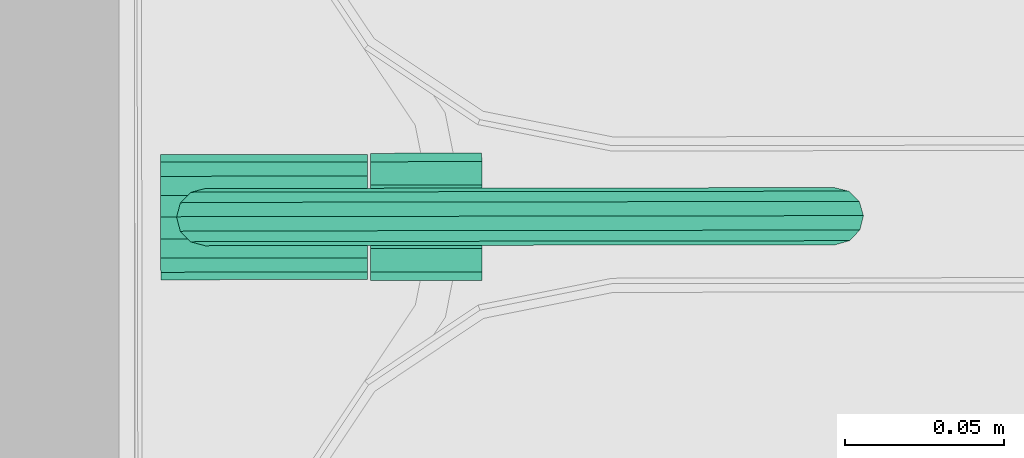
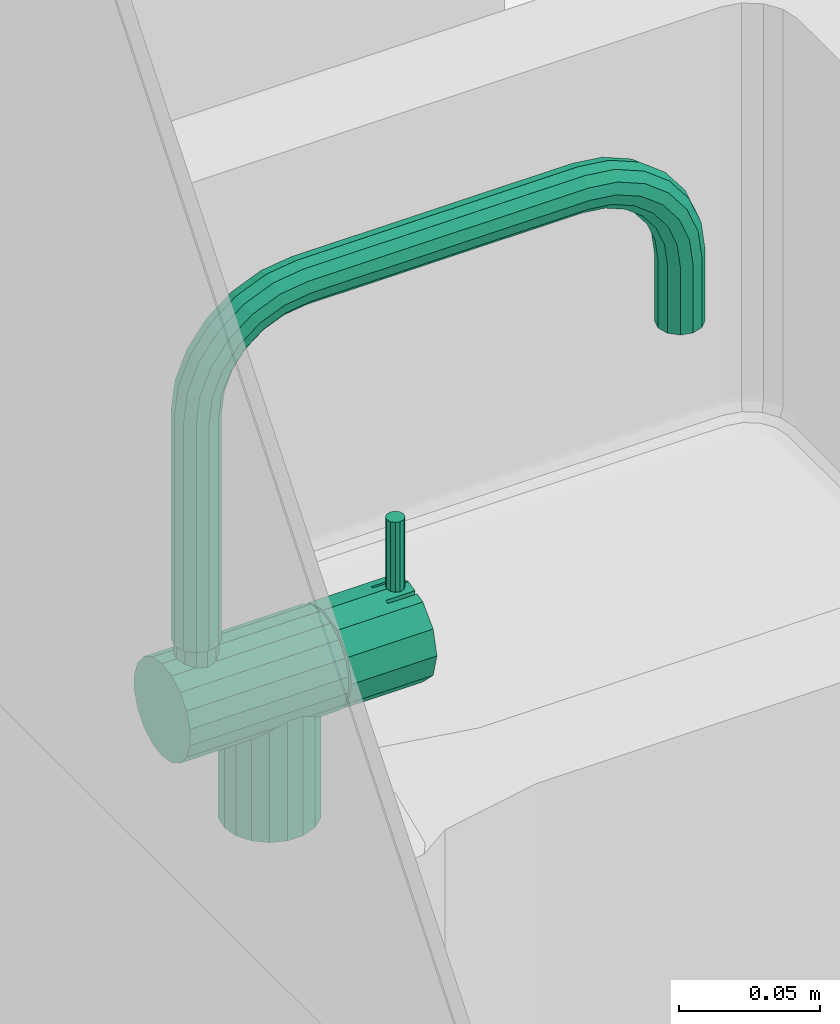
# One storey, part 82 of 127: 1 flow terminal.
"""IFC2X3 building model written with IfcOpenShell, lengths in millimetres."""

from ifc_helpers import new_model, entity, si_unit, converted_unit, derived_unit, money_unit, direction, frame, origin_with_axes, place, context, subcontext, project, spatial, open_shell, faceted_brep, surface_model, source, transform, mapped, type_object, element, save


model = new_model("IFC2X3")

# Units and contexts
model_context = context("Model", 3, precision=1e-05, world=origin_with_axes(), true_north=direction((0.0, 1.0)))
body_context = subcontext(model_context, "Body", "Model", "MODEL_VIEW")
ifc_project = project(units=[si_unit("LENGTHUNIT", "METRE", prefix="MILLI"), si_unit("AREAUNIT", "SQUARE_METRE"), si_unit("VOLUMEUNIT", "CUBIC_METRE"), converted_unit("PLANEANGLEUNIT", "DEGREE", entity("IfcPlaneAngleMeasure", 0.0174532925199), si_unit("PLANEANGLEUNIT", "RADIAN"), dimensions=[0, 0, 0, 0, 0, 0, 0]), si_unit("SOLIDANGLEUNIT", "STERADIAN"), money_unit("EUR"), converted_unit("TIMEUNIT", "Year", entity("IfcTimeMeasure", 31556926.0), si_unit("TIMEUNIT", "SECOND"), dimensions=[0, 0, 1, 0, 0, 0, 0]), si_unit("MASSUNIT", "GRAM", prefix="KILO"), si_unit("THERMODYNAMICTEMPERATUREUNIT", "DEGREE_CELSIUS"), si_unit("LUMINOUSINTENSITYUNIT", "LUMEN"), si_unit("ENERGYUNIT", "JOULE", prefix="MEGA"), derived_unit("THERMALCONDUCTANCEUNIT", [(si_unit("POWERUNIT", "WATT"), 1), (si_unit("LENGTHUNIT", "METRE"), -1), (si_unit("THERMODYNAMICTEMPERATUREUNIT", "KELVIN"), -1)]), derived_unit("SPECIFICHEATCAPACITYUNIT", [(si_unit("ENERGYUNIT", "JOULE"), 1), (si_unit("MASSUNIT", "GRAM", prefix="KILO"), -1), (si_unit("THERMODYNAMICTEMPERATUREUNIT", "KELVIN"), -1)]), derived_unit("MASSDENSITYUNIT", [(si_unit("MASSUNIT", "GRAM", prefix="KILO"), 1), (si_unit("VOLUMEUNIT", "CUBIC_METRE"), -1)])], contexts=[model_context])

# Site, building, storey
site_placement = place(None, origin_with_axes())
site = spatial("IfcSite", under=ifc_project, at=site_placement, Name="Site", CompositionType="ELEMENT")
building_placement = place(site_placement, origin_with_axes())
building = spatial("IfcBuilding", under=site, at=building_placement, Name="Building", CompositionType="ELEMENT")
storey_placement = place(building_placement, origin_with_axes())
storey = spatial("IfcBuildingStorey", under=building, at=storey_placement, Name="1 KORRUS", CompositionType="ELEMENT", Elevation=0.0)

# Flow terminal
sanitary_terminal_type = type_object("IfcSanitaryTerminalType", Name="Tap 22", PredefinedType="NOTDEFINED")
shared_shape = source(origin_with_axes(), body_context, "Body", "SurfaceModel", [
    surface_model("IfcShellBasedSurfaceModel", [(-6.32737265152, 17.3843134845, 1041.02727338), (0.0, 18.5, 1040.0), (0.0, 18.5, 1000.0), (-6.32737265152, 17.3843134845, 1000.0), (6.32737265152, 17.3843134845, 1041.02727338), (6.32737265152, 17.3843134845, 1000.0), (11.8915707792, 14.1718221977, 1000.0), (16.02146997, 9.25, 1000.0), (18.2189434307, 3.21249128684, 1000.0), (18.2189434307, -3.21249128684, 1000.0), (16.02146997, -9.25, 1000.0), (11.8915707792, -14.1718221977, 1000.0), (6.32737265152, -17.3843134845, 1000.0), (0.0, -18.5, 1000.0), (-6.32737265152, -17.3843134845, 1000.0), (-11.8915707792, -14.1718221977, 1000.0), (-16.02146997, -9.25, 1000.0), (-18.2189434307, -3.21249128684, 1000.0), (-18.2189434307, 3.21249128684, 1000.0), (-16.02146997, 9.25, 1000.0), (-11.8915707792, 14.1718221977, 1000.0), (-11.8915707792, 14.1718221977, 1043.91924926), (11.8915707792, 14.1718221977, 1043.91924926), (16.02146997, 9.25, 1048.02868011), (18.2189434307, 3.21249128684, 1051.74953939), (18.2189434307, -3.21249128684, 1051.74953939), (16.02146997, -9.25, 1048.02868011), (11.8915707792, -14.1718221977, 1043.91924926), (6.32737265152, -17.3843134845, 1041.02727338), (0.0, -18.5, 1040.0), (-6.32737265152, -17.3843134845, 1041.02727338), (-11.8915707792, -14.1718221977, 1043.91924926), (-16.02146997, -9.25, 1048.02868011), (-18.2189434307, -3.21249128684, 1051.74953939), (-18.2189434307, 3.21249128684, 1051.74953939), (-16.02146997, 9.25, 1048.02868011)], [open_shell([[[0, 1, 2, 3]], [[1, 4, 5, 2]], [[3, 2, 5, 6, 7, 8, 9, 10, 11, 12, 13, 14, 15, 16, 17, 18, 19, 20]], [[21, 0, 3, 20]], [[4, 22, 6, 5]], [[22, 23, 7, 6]], [[23, 24, 8, 7]], [[24, 25, 9, 8]], [[25, 26, 10, 9]], [[26, 27, 11, 10]], [[27, 28, 12, 11]], [[28, 29, 13, 12]], [[29, 30, 14, 13]], [[30, 31, 15, 14]], [[31, 32, 16, 15]], [[32, 33, 17, 16]], [[33, 34, 18, 17]], [[34, 35, 19, 18]], [[35, 21, 20, 19]]])]),
    faceted_brep([(-6.84040286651, 44.0, 1041.20614758), (-12.8557521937, 44.0, 1044.67911114), (-17.3205080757, 44.0, 1050.0), (-19.6961550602, 44.0, 1056.52703645), (-19.6961550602, 44.0, 1063.47296355), (-17.3205080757, 44.0, 1070.0), (-12.8557521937, 44.0, 1075.32088886), (-6.84040286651, 44.0, 1078.79385242), (0.0, 44.0, 1080.0), (6.84040286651, 44.0, 1078.79385242), (12.8557521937, 44.0, 1075.32088886), (17.3205080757, 44.0, 1070.0), (19.6961550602, 44.0, 1063.47296355), (19.6961550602, 44.0, 1056.52703645), (17.3205080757, 44.0, 1050.0), (12.8557521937, 44.0, 1044.67911114), (6.84040286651, 44.0, 1041.20614758), (0.0, 44.0, 1040.0), (-6.84040286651, -21.0, 1041.20614758), (-12.8557521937, -21.0, 1044.67911114), (-17.3205080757, -21.0, 1050.0), (-19.6961550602, -21.0, 1056.52703645), (-19.6961550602, -21.0, 1063.47296355), (-17.3205080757, -21.0, 1070.0), (-12.8557521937, -21.0, 1075.32088886), (-6.84040286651, -21.0, 1078.79385242), (0.0, -21.0, 1080.0), (6.84040286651, -21.0, 1078.79385242), (12.8557521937, -21.0, 1075.32088886), (17.3205080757, -21.0, 1070.0), (19.6961550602, -21.0, 1063.47296355), (19.6961550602, -21.0, 1056.52703645), (17.3205080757, -21.0, 1050.0), (12.8557521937, -21.0, 1044.67911114), (6.84040286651, -21.0, 1041.20614758), (0.0, -21.0, 1040.0)], [[[0, 1, 2, 3, 4, 5, 6, 7, 8, 9, 10, 11, 12, 13, 14, 15, 16, 17]], [[1, 0, 18, 19]], [[2, 1, 19, 20]], [[3, 2, 20, 21]], [[4, 3, 21, 22]], [[5, 4, 22, 23]], [[6, 5, 23, 24]], [[7, 6, 24, 25]], [[8, 7, 25, 26]], [[9, 8, 26, 27]], [[10, 9, 27, 28]], [[11, 10, 28, 29]], [[12, 11, 29, 30]], [[13, 12, 30, 31]], [[14, 13, 31, 32]], [[15, 14, 32, 33]], [[16, 15, 33, 34]], [[17, 16, 34, 35]], [[0, 17, 35, 18]], [[18, 35, 34, 33, 32, 31, 30, 29, 28, 27, 26, 25, 24, 23, 22, 21, 20, 19]]]),
    faceted_brep([(4.5, -57.0, 1078.79422863), (4.5, -45.0, 1078.79422863), (6.0, -45.0, 1078.39230485), (6.0, -57.0, 1078.39230485), (10.0, -57.0, 1077.32050808), (10.0, -22.0, 1077.32050808), (0.0, -22.0, 1080.0), (0.0, -57.0, 1080.0), (4.5, -57.0, 1041.20577137), (4.5, -45.0, 1041.20577137), (6.0, -45.0, 1041.60769515), (6.0, -57.0, 1041.60769515), (10.0, -57.0, 1042.67949192), (17.3205080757, -57.0, 1050.0), (20.0, -57.0, 1060.0), (17.3205080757, -57.0, 1070.0), (17.3205080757, -22.0, 1070.0), (20.0, -22.0, 1060.0), (17.3205080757, -22.0, 1050.0), (10.0, -22.0, 1042.67949192), (0.0, -22.0, 1040.0), (-10.0, -22.0, 1042.67949192), (-17.3205080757, -22.0, 1050.0), (-20.0, -22.0, 1060.0), (-17.3205080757, -22.0, 1070.0), (-10.0, -22.0, 1077.32050808), (-10.0, -57.0, 1077.32050808), (-6.0, -57.0, 1078.39230485), (-6.0, -45.0, 1078.39230485), (-4.5, -45.0, 1078.79422863), (-4.5, -57.0, 1078.79422863), (-4.5, -57.0, 1041.20577137), (0.0, -57.0, 1040.0), (-4.5, -45.0, 1041.20577137), (-6.0, -45.0, 1041.60769515), (-6.0, -57.0, 1041.60769515), (-10.0, -57.0, 1042.67949192), (-17.3205080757, -57.0, 1050.0), (-20.0, -57.0, 1060.0), (-17.3205080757, -57.0, 1070.0)], [[[0, 1, 2, 3, 4, 5, 6, 7]], [[1, 0, 8, 9]], [[2, 1, 9, 10]], [[3, 2, 10, 11]], [[3, 11, 12, 13, 14, 15, 4]], [[4, 15, 16, 5]], [[5, 16, 17, 18, 19, 20, 21, 22, 23, 24, 25, 6]], [[6, 25, 26, 27, 28, 29, 30, 7]], [[8, 0, 7, 30, 31, 32]], [[9, 8, 32, 20, 19, 12, 11, 10]], [[13, 12, 19, 18]], [[14, 13, 18, 17]], [[15, 14, 17, 16]], [[32, 31, 33, 34, 35, 36, 21, 20]], [[36, 37, 22, 21]], [[37, 38, 23, 22]], [[38, 39, 24, 23]], [[39, 26, 25, 24]], [[38, 37, 36, 35, 27, 26, 39]], [[27, 35, 34, 28]], [[28, 34, 33, 29]], [[29, 33, 31, 30]]]),
    surface_model("IfcShellBasedSurfaceModel", [(1.75, -48.4689110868, 1079.92329039), (0.0, -48.0, 1080.0), (0.0, -48.0, 1110.0), (1.75, -48.4689110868, 1110.0), (-1.75, -48.4689110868, 1079.92329039), (-1.75, -48.4689110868, 1110.0), (-3.03108891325, -49.75, 1110.0), (-3.5, -51.5, 1110.0), (-3.03108891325, -53.25, 1110.0), (-1.75, -54.5310889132, 1110.0), (0.0, -55.0, 1110.0), (1.75, -54.5310889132, 1110.0), (3.03108891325, -53.25, 1110.0), (3.5, -51.5, 1110.0), (3.03108891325, -49.75, 1110.0), (3.03108891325, -49.75, 1079.76897822), (-3.03108891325, -49.75, 1079.76897822), (-3.5, -51.5, 1079.69136867), (-3.03108891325, -53.25, 1079.76897822), (-1.75, -54.5310889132, 1079.92329039), (0.0, -55.0, 1080.0), (1.75, -54.5310889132, 1079.92329039), (3.03108891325, -53.25, 1079.76897822), (3.5, -51.5, 1079.69136867)], [open_shell([[[0, 1, 2, 3]], [[1, 4, 5, 2]], [[3, 2, 5, 6, 7, 8, 9, 10, 11, 12, 13, 14]], [[15, 0, 3, 14]], [[4, 16, 6, 5]], [[16, 17, 7, 6]], [[17, 18, 8, 7]], [[18, 19, 9, 8]], [[19, 20, 10, 9]], [[20, 21, 11, 10]], [[21, 22, 12, 11]], [[22, 23, 13, 12]], [[23, 15, 14, 13]]])]),
    surface_model("IfcShellBasedSurfaceModel", [(4.0, 36.9282032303, 1079.59591794), (0.0, 38.0, 1080.0), (0.0, 38.0, 1090.0), (4.0, 36.9282032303, 1090.0), (-4.0, 36.9282032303, 1079.59591794), (-4.0, 36.9282032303, 1090.0), (-6.92820323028, 34.0, 1090.0), (-8.0, 30.0, 1090.0), (-6.92820323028, 26.0, 1090.0), (-4.0, 23.0717967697, 1090.0), (0.0, 22.0, 1090.0), (4.0, 23.0717967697, 1090.0), (6.92820323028, 26.0, 1090.0), (8.0, 30.0, 1090.0), (6.92820323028, 34.0, 1090.0), (6.92820323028, 34.0, 1078.76166304), (-6.92820323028, 34.0, 1078.76166304), (-8.0, 30.0, 1078.33030278), (-6.92820323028, 26.0, 1078.76166304), (-4.0, 23.0717967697, 1079.59591794), (0.0, 22.0, 1080.0), (4.0, 23.0717967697, 1079.59591794), (6.92820323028, 26.0, 1078.76166304), (8.0, 30.0, 1078.33030278)], [open_shell([[[0, 1, 2, 3]], [[1, 4, 5, 2]], [[3, 2, 5, 6, 7, 8, 9, 10, 11, 12, 13, 14]], [[15, 0, 3, 14]], [[4, 16, 6, 5]], [[16, 17, 7, 6]], [[17, 18, 8, 7]], [[18, 19, 9, 8]], [[19, 20, 10, 9]], [[20, 21, 11, 10]], [[21, 22, 12, 11]], [[22, 23, 13, 12]], [[23, 15, 14, 13]]])]),
    surface_model("IfcShellBasedSurfaceModel", [(-9.0, 30.0, 1086.0), (-7.79422863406, 25.5, 1086.0), (-7.79422863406, 25.5, 1183.70505442), (-9.0, 30.0, 1184.0), (-4.5, 22.2057713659, 1086.0), (-4.5, 22.2057713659, 1183.48913927), (-7.87157736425, 24.317905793, 1193.73135353), (-7.79422863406, 34.5, 1086.0), (-7.79422863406, 34.5, 1184.29494558), (0.0, 21.0, 1086.0), (0.0, 21.0, 1183.41010883), (-4.63534267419, 21.052944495, 1192.85650978), (-8.99862925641, 28.7219134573, 1194.91140383), (-4.5, 37.7942286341, 1086.0), (-4.5, 37.7942286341, 1184.51086073), (4.5, 22.2057713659, 1086.0), (4.5, 22.2057713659, 1183.48913927), (-0.157071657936, 19.8018733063, 1192.52128627), (-4.63534267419, 17.6344593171, 1201.10946306), (-7.87157736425, 20.5617435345, 1202.79953139), (-8.99862925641, 24.5102687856, 1205.07921351), (-7.71450570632, 33.0849171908, 1196.08046715), (0.0, 39.0, 1086.0), (0.0, 39.0, 1184.58989117), (7.79422863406, 25.5, 1086.0), (7.79422863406, 25.5, 1183.70505442), (4.36328658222, 20.8999157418, 1192.81550585), (-0.157071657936, 16.5127795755, 1200.46186096), (-4.63534267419, 12.1964347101, 1208.19643471), (-7.87157736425, 14.586552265, 1210.58655226), (-8.99862925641, 17.8105096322, 1213.81050963), (-7.71450570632, 28.422030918, 1207.33767043), (-4.36328658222, 36.2378536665, 1196.92529393), (4.5, 37.7942286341, 1086.0), (4.5, 37.7942286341, 1184.51086073), (9.0, 30.0, 1086.0), (9.0, 30.0, 1184.0), (7.71450570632, 24.0528522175, 1193.66033264), (4.36328658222, 17.4972574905, 1201.03024955), (-0.157071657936, 11.2805870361, 1207.28058704), (-4.63534267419, 5.10946306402, 1213.63445932), (-7.87157736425, 6.79953139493, 1216.56174353), (-8.99862925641, 9.07921351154, 1220.51026879), (-7.71450570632, 21.0044500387, 1217.00445004), (-4.36328658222, 31.2488764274, 1208.96975045), (0.157071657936, 37.335896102, 1197.21951352), (7.79422863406, 34.5, 1086.0), (7.79422863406, 34.5, 1184.29494558), (8.99862925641, 28.415855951, 1194.82939596), (7.71450570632, 20.3241029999, 1202.66232957), (4.36328658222, 12.0844098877, 1208.08440989), (-0.157071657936, 4.46186096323, 1212.51277958), (-4.63534267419, -3.14349021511, 1217.05294449), (-7.87157736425, -2.26864647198, 1220.31790579), (-8.99862925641, -1.08859617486, 1224.72191346), (-7.71450570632, 11.3376704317, 1224.42203092), (-4.36328658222, 23.312559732, 1219.31255973), (0.157071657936, 32.2333543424, 1209.53813904), (4.63534267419, 36.0848249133, 1196.88429), (7.87157736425, 32.8198636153, 1196.00944626), (8.99862925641, 24.2358651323, 1204.92078649), (7.71450570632, 14.392519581, 1210.39251958), (4.36328658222, 5.03024955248, 1213.49725749), (-0.157071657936, -3.47871372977, 1215.80187331), (-4.63534267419, -12.5056354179, 1218.28549429), (-7.87157736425, -12.2859849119, 1221.63671342), (-8.99862925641, -11.9897049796, 1226.15707166), (-7.71450570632, 0.0804671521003, 1229.08491719), (-4.36328658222, 12.9697504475, 1227.24887643), (0.157071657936, 24.1163825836, 1220.11638258), (4.63534267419, 31.1116746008, 1208.89053694), (7.87157736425, 28.1843903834, 1207.20046861), (8.99862925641, 17.5864599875, 1213.58645999), (7.71450570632, 6.6623295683, 1216.324103), (4.36328658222, -3.18449414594, 1216.89991574), (-0.157071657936, -12.5898013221, 1217.00137074), (-4.63534267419, -125.494364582, 1218.28549429), (-7.87157736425, -125.714015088, 1221.63671342), (-8.99862925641, -126.01029502, 1226.15707166), (-7.71450570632, -11.6961835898, 1230.63534267), (-4.36328658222, 0.925293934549, 1232.23785367), (0.157071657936, 13.5381390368, 1228.23335434), (4.63534267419, 23.2005349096, 1219.20053491), (7.87157736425, 20.8104173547, 1216.81041735), (8.99862925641, 8.92078648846, 1220.23586513), (7.71450570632, -2.33966736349, 1220.05285222), (4.36328658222, -12.5159304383, 1218.12842264), (-0.157071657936, -125.410198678, 1217.00137074), (-4.63534267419, -134.856509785, 1217.05294449), (-7.87157736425, -135.731353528, 1220.31790579), (-8.99862925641, -136.911403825, 1224.72191346), (-7.71450570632, -126.30381641, 1230.63534267), (-4.36328658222, -11.4840695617, 1233.87157736), (0.157071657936, 1.21951351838, 1233.3358961), (4.63534267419, 12.890536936, 1227.1116746), (7.87157736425, 11.2004686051, 1224.18439038), (8.99862925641, -1.17060403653, 1224.41585595), (7.71450570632, -12.3038164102, 1221.36465733), (4.36328658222, -125.484069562, 1218.12842264), (-0.157071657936, -134.52128627, 1215.80187331), (-4.63534267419, -143.109463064, 1213.63445932), (-7.87157736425, -144.799531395, 1216.56174353), (-8.99862925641, -147.079213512, 1220.51026879), (-7.71450570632, -138.080467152, 1229.08491719), (-4.36328658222, -126.515930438, 1233.87157736), (0.157071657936, -11.4101986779, 1234.99862926), (4.63534267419, 0.884290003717, 1232.08482491), (7.87157736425, 0.00944626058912, 1228.81986362), (8.99862925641, -12.0102950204, 1225.84292834), (7.71450570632, -125.69618359, 1221.36465733), (4.36328658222, -134.815505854, 1216.89991574), (-0.157071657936, -142.461860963, 1212.51277958), (-4.63534267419, -150.19643471, 1208.19643471), (-7.87157736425, -152.586552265, 1210.58655226), (-8.99862925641, -155.810509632, 1213.81050963), (-7.71450570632, -149.337670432, 1224.42203092), (-4.36328658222, -138.925293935, 1232.23785367), (0.157071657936, -126.589801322, 1234.99862926), (4.63534267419, -11.4943645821, 1233.71450571), (7.87157736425, -11.7140150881, 1230.36328658), (8.99862925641, -125.98970498, 1225.84292834), (7.71450570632, -135.660332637, 1220.05285222), (4.36328658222, -143.030249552, 1213.49725749), (-0.157071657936, -149.280587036, 1207.28058704), (-4.63534267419, -155.634459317, 1201.10946306), (-7.87157736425, -158.561743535, 1202.79953139), (-8.99862925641, -162.510268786, 1205.07921351), (-7.71450570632, -159.004450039, 1217.00445004), (-4.36328658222, -150.969750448, 1227.24887643), (0.157071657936, -139.219513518, 1233.3358961), (4.63534267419, -126.505635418, 1233.71450571), (7.87157736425, -126.285984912, 1230.36328658), (8.99862925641, -136.829395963, 1224.41585595), (7.71450570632, -144.662329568, 1216.324103), (4.36328658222, -150.084409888, 1208.08440989), (-0.157071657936, -154.512779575, 1200.46186096), (-4.63534267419, -159.052944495, 1192.85650978), (-7.87157736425, -162.317905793, 1193.73135353), (-8.99862925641, -166.721913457, 1194.91140383), (-7.71450570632, -166.422030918, 1207.33767043), (-4.36328658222, -161.312559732, 1219.31255973), (0.157071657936, -151.538139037, 1228.23335434), (4.63534267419, -138.884290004, 1232.08482491), (7.87157736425, -138.009446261, 1228.81986362), (8.99862925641, -146.920786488, 1220.23586513), (7.71450570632, -152.392519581, 1210.39251958), (4.36328658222, -155.49725749, 1201.03024955), (-0.157071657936, -157.801873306, 1192.52128627), (-4.63534267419, -160.285494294, 1183.49436458), (-7.87157736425, -163.636713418, 1183.71401509), (-8.99862925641, -168.157071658, 1184.01029502), (-7.71450570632, -171.084917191, 1196.08046715), (-4.36328658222, -169.248876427, 1208.96975045), (0.157071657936, -162.116382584, 1220.11638258), (4.63534267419, -150.890536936, 1227.1116746), (7.87157736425, -149.200468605, 1224.18439038), (8.99862925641, -155.586459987, 1213.58645999), (7.71450570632, -158.324103, 1202.66232957), (4.36328658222, -158.899915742, 1192.81550585), (-0.157071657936, -159.001370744, 1183.41019868), (-4.63534267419, -160.285494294, 1154.0), (-7.87157736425, -163.636713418, 1154.0), (-8.99862925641, -168.157071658, 1154.0), (-7.71450570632, -172.635342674, 1184.30381641), (-4.36328658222, -174.237853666, 1196.92529393), (0.157071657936, -170.233354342, 1209.53813904), (4.63534267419, -161.20053491, 1219.20053491), (7.87157736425, -158.810417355, 1216.81041735), (8.99862925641, -162.235865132, 1204.92078649), (7.71450570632, -162.052852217, 1193.66033264), (4.36328658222, -160.128422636, 1183.48406956), (-0.157071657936, -159.001370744, 1154.0), (-7.71450570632, -172.635342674, 1154.0), (-4.36328658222, -175.871577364, 1184.51593044), (0.157071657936, -175.335896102, 1197.21951352), (4.63534267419, -169.111674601, 1208.89053694), (7.87157736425, -166.184390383, 1207.20046861), (8.99862925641, -166.415855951, 1194.82939596), (7.71450570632, -163.364657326, 1183.69618359), (4.36328658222, -160.128422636, 1154.0), (-4.36328658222, -175.871577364, 1154.0), (0.157071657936, -176.998629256, 1184.58980132), (4.63534267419, -174.084824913, 1196.88429), (7.87157736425, -170.819863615, 1196.00944626), (8.99862925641, -167.842928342, 1183.98970498), (7.71450570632, -163.364657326, 1154.0), (0.157071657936, -176.998629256, 1154.0), (4.63534267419, -175.714505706, 1184.50563542), (7.87157736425, -172.363286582, 1184.28598491), (8.99862925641, -167.842928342, 1154.0), (4.63534267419, -175.714505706, 1154.0), (7.87157736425, -172.363286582, 1154.0)], [open_shell([[[0, 1, 2, 3]], [[1, 4, 5, 2]], [[3, 2, 6]], [[7, 0, 3, 8]], [[4, 9, 10, 5]], [[2, 5, 11]], [[2, 11, 6]], [[3, 6, 12]], [[8, 3, 12]], [[13, 7, 8, 14]], [[9, 15, 16, 10]], [[5, 10, 17]], [[5, 17, 11]], [[6, 11, 18, 19]], [[12, 6, 19, 20]], [[8, 12, 21]], [[14, 8, 21]], [[22, 13, 14, 23]], [[15, 24, 25, 16]], [[10, 16, 26]], [[10, 26, 17]], [[11, 17, 27, 18]], [[19, 18, 28, 29]], [[20, 19, 29, 30]], [[21, 12, 20, 31]], [[14, 21, 32]], [[23, 14, 32]], [[33, 22, 23, 34]], [[24, 35, 36, 25]], [[16, 25, 37]], [[16, 37, 26]], [[17, 26, 38, 27]], [[18, 27, 39, 28]], [[29, 28, 40, 41]], [[30, 29, 41, 42]], [[31, 20, 30, 43]], [[32, 21, 31, 44]], [[23, 32, 45]], [[34, 23, 45]], [[46, 33, 34, 47]], [[35, 46, 47, 36]], [[25, 36, 48]], [[25, 48, 37]], [[26, 37, 49, 38]], [[27, 38, 50, 39]], [[28, 39, 51, 40]], [[41, 40, 52, 53]], [[42, 41, 53, 54]], [[43, 30, 42, 55]], [[44, 31, 43, 56]], [[45, 32, 44, 57]], [[34, 45, 58]], [[47, 34, 58]], [[36, 47, 59]], [[36, 59, 48]], [[37, 48, 60, 49]], [[38, 49, 61, 50]], [[39, 50, 62, 51]], [[40, 51, 63, 52]], [[53, 52, 64, 65]], [[54, 53, 65, 66]], [[55, 42, 54, 67]], [[56, 43, 55, 68]], [[57, 44, 56, 69]], [[58, 45, 57, 70]], [[47, 58, 59]], [[48, 59, 71, 60]], [[49, 60, 72, 61]], [[50, 61, 73, 62]], [[51, 62, 74, 63]], [[52, 63, 75, 64]], [[65, 64, 76, 77]], [[66, 65, 77, 78]], [[67, 54, 66, 79]], [[68, 55, 67, 80]], [[69, 56, 68, 81]], [[70, 57, 69, 82]], [[59, 58, 70, 71]], [[60, 71, 83, 72]], [[61, 72, 84, 73]], [[62, 73, 85, 74]], [[63, 74, 86, 75]], [[64, 75, 87, 76]], [[77, 76, 88, 89]], [[78, 77, 89, 90]], [[79, 66, 78, 91]], [[80, 67, 79, 92]], [[81, 68, 80, 93]], [[82, 69, 81, 94]], [[71, 70, 82, 83]], [[72, 83, 95, 84]], [[73, 84, 96, 85]], [[74, 85, 97, 86]], [[75, 86, 98, 87]], [[76, 87, 99, 88]], [[89, 88, 100, 101]], [[90, 89, 101, 102]], [[91, 78, 90, 103]], [[92, 79, 91, 104]], [[93, 80, 92, 105]], [[94, 81, 93, 106]], [[83, 82, 94, 95]], [[84, 95, 107, 96]], [[85, 96, 108, 97]], [[86, 97, 109, 98]], [[87, 98, 110, 99]], [[88, 99, 111, 100]], [[101, 100, 112, 113]], [[102, 101, 113, 114]], [[103, 90, 102, 115]], [[104, 91, 103, 116]], [[105, 92, 104, 117]], [[106, 93, 105, 118]], [[95, 94, 106, 107]], [[96, 107, 119, 108]], [[97, 108, 120, 109]], [[98, 109, 121, 110]], [[99, 110, 122, 111]], [[100, 111, 123, 112]], [[113, 112, 124, 125]], [[114, 113, 125, 126]], [[115, 102, 114, 127]], [[116, 103, 115, 128]], [[117, 104, 116, 129]], [[118, 105, 117, 130]], [[107, 106, 118, 119]], [[108, 119, 131, 120]], [[109, 120, 132, 121]], [[110, 121, 133, 122]], [[111, 122, 134, 123]], [[112, 123, 135, 124]], [[125, 124, 136, 137]], [[126, 125, 137, 138]], [[127, 114, 126, 139]], [[128, 115, 127, 140]], [[129, 116, 128, 141]], [[130, 117, 129, 142]], [[119, 118, 130, 131]], [[120, 131, 143, 132]], [[121, 132, 144, 133]], [[122, 133, 145, 134]], [[123, 134, 146, 135]], [[124, 135, 147, 136]], [[137, 136, 148, 149]], [[138, 137, 149, 150]], [[139, 126, 138, 151]], [[140, 127, 139, 152]], [[141, 128, 140, 153]], [[142, 129, 141, 154]], [[131, 130, 142, 143]], [[132, 143, 155, 144]], [[133, 144, 156, 145]], [[134, 145, 157, 146]], [[135, 146, 158, 147]], [[136, 147, 159, 148]], [[149, 148, 160, 161]], [[150, 149, 161, 162]], [[151, 138, 150, 163]], [[152, 139, 151, 164]], [[153, 140, 152, 165]], [[154, 141, 153, 166]], [[143, 142, 154, 155]], [[144, 155, 167, 156]], [[145, 156, 168, 157]], [[146, 157, 169, 158]], [[147, 158, 170, 159]], [[148, 159, 171, 160]], [[163, 150, 162, 172]], [[164, 151, 163, 173]], [[165, 152, 164, 174]], [[166, 153, 165, 175]], [[155, 154, 166, 167]], [[156, 167, 176, 168]], [[157, 168, 177, 169]], [[158, 169, 178, 170]], [[159, 170, 179, 171]], [[173, 163, 172, 180]], [[174, 164, 173, 181]], [[175, 165, 174, 182]], [[167, 166, 175, 176]], [[168, 176, 183, 177]], [[169, 177, 184, 178]], [[170, 178, 185, 179]], [[181, 173, 180, 186]], [[182, 174, 181, 187]], [[176, 175, 182, 183]], [[177, 183, 188, 184]], [[178, 184, 189, 185]], [[187, 181, 186, 190]], [[183, 182, 187, 188]], [[184, 188, 191, 189]], [[188, 187, 190, 191]]])]),
])
flow_terminal_placement = place(storey_placement, frame((37211.2140461, 38690.7405615, -139.426997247), z_axis=(0.0, 0.0, 1.0), x_axis=(-0.00153919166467, 0.999998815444, 0.0)))
element("IfcFlowTerminal", 1, at=flow_terminal_placement, inside=storey, type_object=sanitary_terminal_type, Name="Valamu", context=body_context, shape_type="MappedRepresentation", body=[
    mapped(shared_shape, transform((0.0, 0.0, 0.0))),
])

save(model, "model.ifc")
